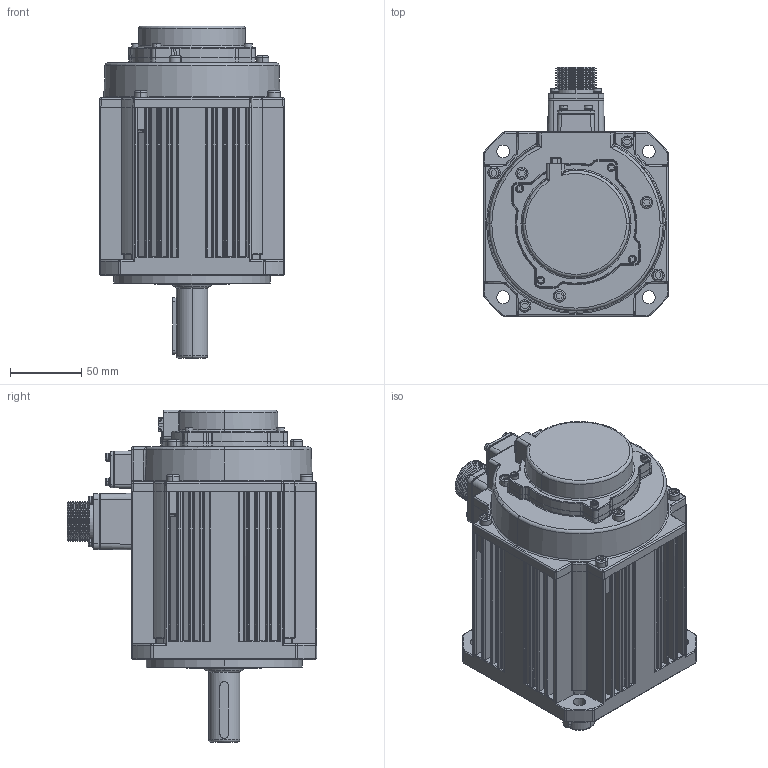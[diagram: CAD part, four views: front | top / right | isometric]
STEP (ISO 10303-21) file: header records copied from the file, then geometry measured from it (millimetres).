
FILE_DESCRIPTION (( 'STEP AP203' ), '1' );
FILE_NAME ('G3系列130伺服-1800W刹车电机三维图-三竹插拔式.STEP', '2023-09-27T08:55:43', ( '微软用户' ), ( '微软中国' ), 'SwSTEP 2.0', 'SolidWorks 2016', '' );
FILE_SCHEMA (( 'CONFIG_CONTROL_DESIGN' ));
Products named in the file (1): G3系列130伺服-1800W刹车电机三维图-三竹插拔式
Bounding box: 130 x 175.3 x 233.5 mm (x, y, z)
Surface area: 322045.8 mm2 (no closed solid volume)
Topology: 0 solids, 30 shells, 3952 faces, 10113 edges, 6334 vertices
Faces by surface type: plane 1670, cylinder 871, cone 552, bspline 509, torus 275, sphere 75
Entity records: 136454 total; most frequent: CARTESIAN_POINT 43673, ORIENTED_EDGE 19994, DIRECTION 18363, EDGE_CURVE 10011, AXIS2_PLACEMENT_3D 6342, VERTEX_POINT 6322, VECTOR 5679, LINE 5679
